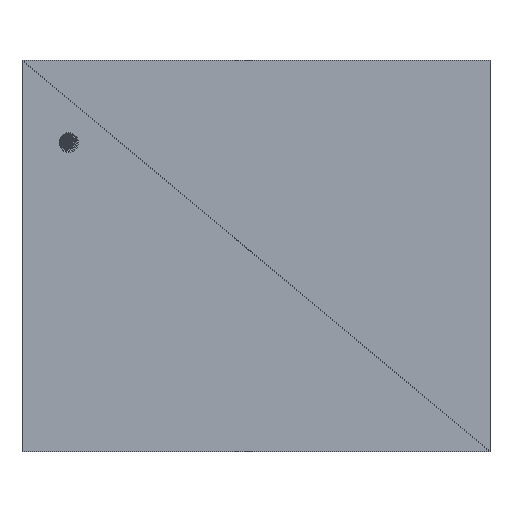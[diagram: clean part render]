
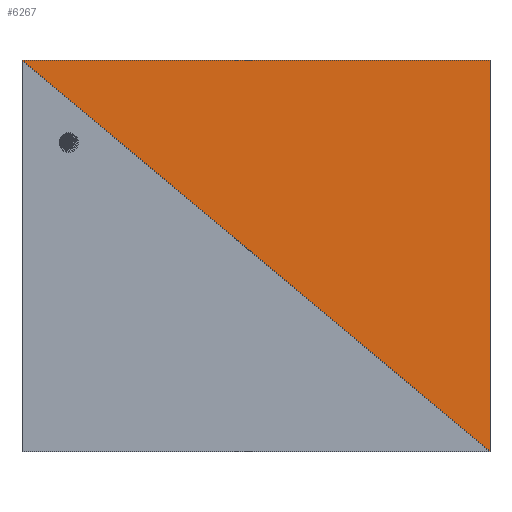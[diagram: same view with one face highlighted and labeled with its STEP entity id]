
A CAD part, top view. The second image highlights one B-rep face of the part: STEP entity #6267.
In plain terms, the highlighted planar face has unit normal (0, 0, 1).
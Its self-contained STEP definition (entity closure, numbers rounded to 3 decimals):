
#5877 = VERTEX_POINT('',#5878);
#5878 = CARTESIAN_POINT('',(1.549,-1.295,
    0.864));
#5892 = PLANE('',#5893);
#5893 = AXIS2_PLACEMENT_3D('',#5894,#5895,#5896);
#5894 = CARTESIAN_POINT('',(-0.412,-0.412,
    0.864));
#5895 = DIRECTION('',(0.,0.,1.));
#5896 = DIRECTION('',(1.,0.,-0.));
#5948 = PLANE('',#5949);
#5949 = AXIS2_PLACEMENT_3D('',#5950,#5951,#5952);
#5950 = CARTESIAN_POINT('',(1.549,0.172,0.63
    ));
#5951 = DIRECTION('',(1.,0.,0.));
#5952 = DIRECTION('',(-0.,0.,1.));
#5983 = EDGE_CURVE('',#5984,#5877,#5986,.T.);
#5984 = VERTEX_POINT('',#5985);
#5985 = CARTESIAN_POINT('',(1.549,1.295,0.864
    ));
#5986 = SURFACE_CURVE('',#5987,(#5991,#5998),.PCURVE_S1.);
#5987 = LINE('',#5988,#5989);
#5988 = CARTESIAN_POINT('',(1.549,1.295,0.864
    ));
#5989 = VECTOR('',#5990,1.);
#5990 = DIRECTION('',(0.,-1.,0.));
#5991 = PCURVE('',#5948,#5992);
#5992 = DEFINITIONAL_REPRESENTATION('',(#5993),#5997);
#5993 = LINE('',#5994,#5995);
#5994 = CARTESIAN_POINT('',(0.234,-1.123));
#5995 = VECTOR('',#5996,1.);
#5996 = DIRECTION('',(0.,1.));
#5997 = ( GEOMETRIC_REPRESENTATION_CONTEXT(2) 
PARAMETRIC_REPRESENTATION_CONTEXT() REPRESENTATION_CONTEXT('2D SPACE',''
  ) );
#5998 = PCURVE('',#5999,#6004);
#5999 = PLANE('',#6000);
#6000 = AXIS2_PLACEMENT_3D('',#6001,#6002,#6003);
#6001 = CARTESIAN_POINT('',(0.412,0.412,0.864
    ));
#6002 = DIRECTION('',(0.,0.,1.));
#6003 = DIRECTION('',(1.,0.,-0.));
#6004 = DEFINITIONAL_REPRESENTATION('',(#6005),#6008);
#6005 = B_SPLINE_CURVE_WITH_KNOTS('',1,(#6006,#6007),.UNSPECIFIED.,.F.,
  .F.,(2,2),(0.,2.59),.PIECEWISE_BEZIER_KNOTS.);
#6006 = CARTESIAN_POINT('',(1.137,0.883));
#6007 = CARTESIAN_POINT('',(1.137,-1.707));
#6008 = ( GEOMETRIC_REPRESENTATION_CONTEXT(2) 
PARAMETRIC_REPRESENTATION_CONTEXT() REPRESENTATION_CONTEXT('2D SPACE',''
  ) );
#6055 = PLANE('',#6056);
#6056 = AXIS2_PLACEMENT_3D('',#6057,#6058,#6059);
#6057 = CARTESIAN_POINT('',(-0.177,1.295,0.635
    ));
#6058 = DIRECTION('',(0.,1.,0.));
#6059 = DIRECTION('',(0.,-0.,1.));
#6095 = EDGE_CURVE('',#6096,#5984,#6098,.T.);
#6096 = VERTEX_POINT('',#6097);
#6097 = CARTESIAN_POINT('',(-1.549,1.295,
    0.864));
#6098 = SURFACE_CURVE('',#6099,(#6103,#6110),.PCURVE_S1.);
#6099 = LINE('',#6100,#6101);
#6100 = CARTESIAN_POINT('',(-1.549,1.295,
    0.864));
#6101 = VECTOR('',#6102,1.);
#6102 = DIRECTION('',(1.,0.,0.));
#6103 = PCURVE('',#6055,#6104);
#6104 = DEFINITIONAL_REPRESENTATION('',(#6105),#6109);
#6105 = LINE('',#6106,#6107);
#6106 = CARTESIAN_POINT('',(0.229,-1.372));
#6107 = VECTOR('',#6108,1.);
#6108 = DIRECTION('',(0.,1.));
#6109 = ( GEOMETRIC_REPRESENTATION_CONTEXT(2) 
PARAMETRIC_REPRESENTATION_CONTEXT() REPRESENTATION_CONTEXT('2D SPACE',''
  ) );
#6110 = PCURVE('',#5999,#6111);
#6111 = DEFINITIONAL_REPRESENTATION('',(#6112),#6115);
#6112 = B_SPLINE_CURVE_WITH_KNOTS('',1,(#6113,#6114),.UNSPECIFIED.,.F.,
  .F.,(2,2),(0.,3.098),.PIECEWISE_BEZIER_KNOTS.);
#6113 = CARTESIAN_POINT('',(-1.961,0.883));
#6114 = CARTESIAN_POINT('',(1.137,0.883));
#6115 = ( GEOMETRIC_REPRESENTATION_CONTEXT(2) 
PARAMETRIC_REPRESENTATION_CONTEXT() REPRESENTATION_CONTEXT('2D SPACE',''
  ) );
#6246 = EDGE_CURVE('',#5877,#6096,#6247,.T.);
#6247 = SURFACE_CURVE('',#6248,(#6252,#6259),.PCURVE_S1.);
#6248 = LINE('',#6249,#6250);
#6249 = CARTESIAN_POINT('',(1.549,-1.295,
    0.864));
#6250 = VECTOR('',#6251,1.);
#6251 = DIRECTION('',(-0.767,0.641,0.));
#6252 = PCURVE('',#5892,#6253);
#6253 = DEFINITIONAL_REPRESENTATION('',(#6254),#6258);
#6254 = LINE('',#6255,#6256);
#6255 = CARTESIAN_POINT('',(1.961,-0.883));
#6256 = VECTOR('',#6257,1.);
#6257 = DIRECTION('',(-0.767,0.641));
#6258 = ( GEOMETRIC_REPRESENTATION_CONTEXT(2) 
PARAMETRIC_REPRESENTATION_CONTEXT() REPRESENTATION_CONTEXT('2D SPACE',''
  ) );
#6259 = PCURVE('',#5999,#6260);
#6260 = DEFINITIONAL_REPRESENTATION('',(#6261),#6264);
#6261 = B_SPLINE_CURVE_WITH_KNOTS('',1,(#6262,#6263),.UNSPECIFIED.,.F.,
  .F.,(2,2),(0.,4.038),.PIECEWISE_BEZIER_KNOTS.);
#6262 = CARTESIAN_POINT('',(1.137,-1.707));
#6263 = CARTESIAN_POINT('',(-1.961,0.883));
#6264 = ( GEOMETRIC_REPRESENTATION_CONTEXT(2) 
PARAMETRIC_REPRESENTATION_CONTEXT() REPRESENTATION_CONTEXT('2D SPACE',''
  ) );
#6267 = ADVANCED_FACE('',(#6268),#5999,.T.);
#6268 = FACE_BOUND('',#6269,.T.);
#6269 = EDGE_LOOP('',(#6270,#6271,#6272));
#6270 = ORIENTED_EDGE('',*,*,#6095,.F.);
#6271 = ORIENTED_EDGE('',*,*,#6246,.F.);
#6272 = ORIENTED_EDGE('',*,*,#5983,.F.);
